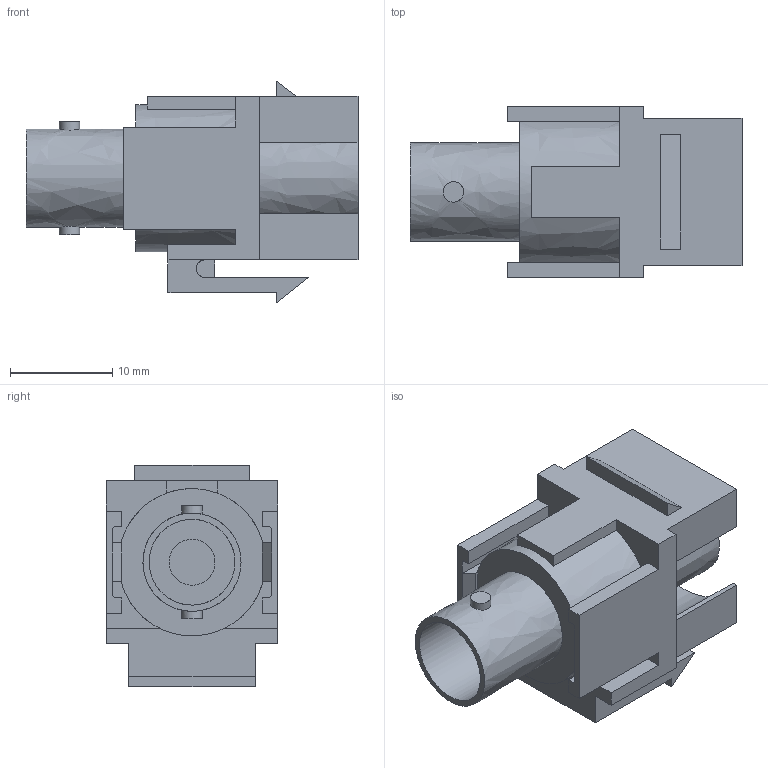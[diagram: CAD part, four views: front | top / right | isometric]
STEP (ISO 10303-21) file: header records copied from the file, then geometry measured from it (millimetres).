
FILE_DESCRIPTION( ('This file contains a STEP AP42 implementation' ,'as created by ZW3D STEP Interface translator.') ,'2;1' );
FILE_NAME( 'TB-017_SY-BNC-1_SD.stp' ,'26 330.134527', (''), ('ZWCAD Software Co.'), 'Version 1.0', 'ZW3D to STEP translator', '' );
FILE_SCHEMA(('AUTOMOTIVE_DESIGN'));
Length unit declared in the file: millimetre
Products named in the file (2): 0; TB-017_SY-BNC-1_SD
Bounding box: 32.5 x 16.8 x 21.7 mm (x, y, z)
Volume: 4017.7 mm3; surface area: 4275.8 mm2
Topology: 2 solids, 2 shells, 96 faces, 251 edges, 169 vertices
Faces by surface type: bspline 96
Entity records: 5287 total; most frequent: CARTESIAN_POINT 3591, ORIENTED_EDGE 502, B_SPLINE_CURVE_WITH_KNOTS 251, EDGE_CURVE 251, VERTEX_POINT 169, EDGE_LOOP 106, FACE_OUTER_BOUND 96, ADVANCED_FACE 96
